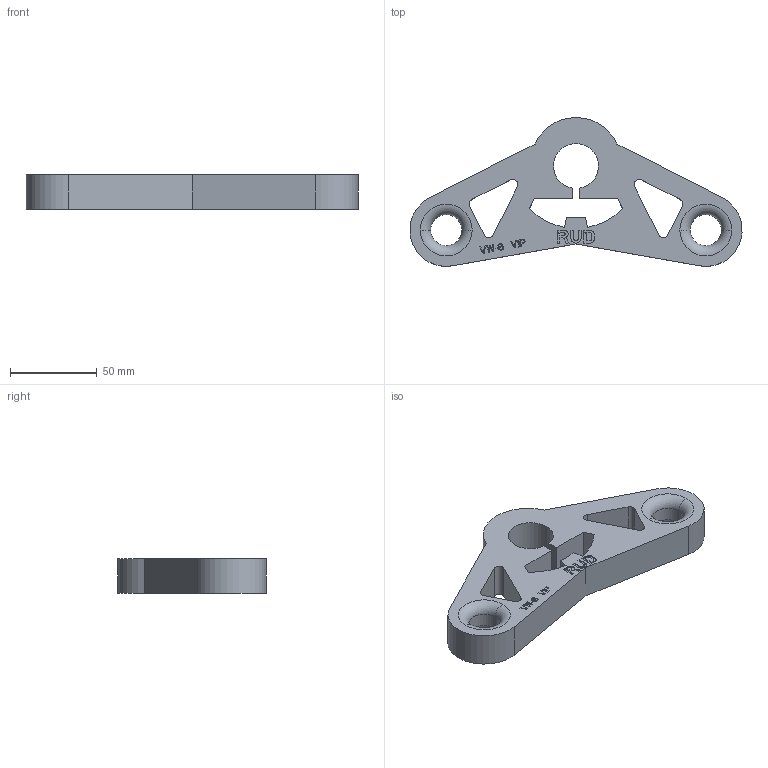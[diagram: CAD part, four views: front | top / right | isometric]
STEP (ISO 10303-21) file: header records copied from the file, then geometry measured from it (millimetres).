
FILE_DESCRIPTION((''),'2;1');
FILE_NAME('001-M34652-P-1','2015-05-18T',('Andreas.Wendler'),(''),'PRO/ENGINEER BY PARAMETRIC TECHNOLOGY CORPORATION, 2010140','PRO/ENGINEER BY PARAMETRIC TECHNOLOGY CORPORATION, 2010140','');
FILE_SCHEMA(('CONFIG_CONTROL_DESIGN'));
Length unit declared in the file: millimetre
Products named in the file (1): 001-M34652-P-1
Bounding box: 191.89 x 86 x 20 mm (x, y, z)
Volume: 149572.8 mm3; surface area: 34298.3 mm2
Topology: 1 solids, 1 shells, 221 faces, 610 edges, 404 vertices
Faces by surface type: plane 187, cylinder 26, torus 8
Entity records: 7006 total; most frequent: CARTESIAN_POINT 1235, ORIENTED_EDGE 1220, DIRECTION 1120, EDGE_CURVE 610, VECTOR 542, LINE 542, VERTEX_POINT 404, AXIS2_PLACEMENT_3D 289
